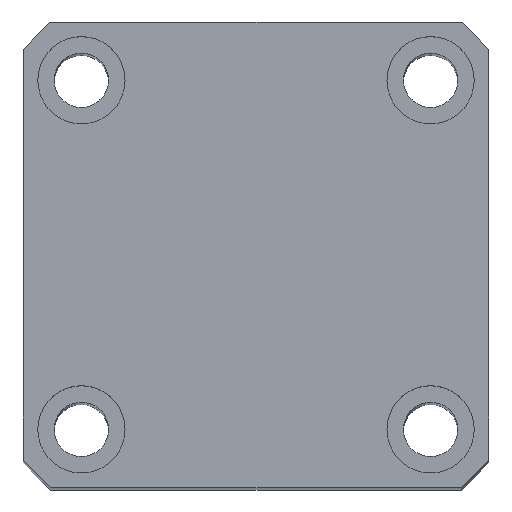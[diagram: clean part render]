
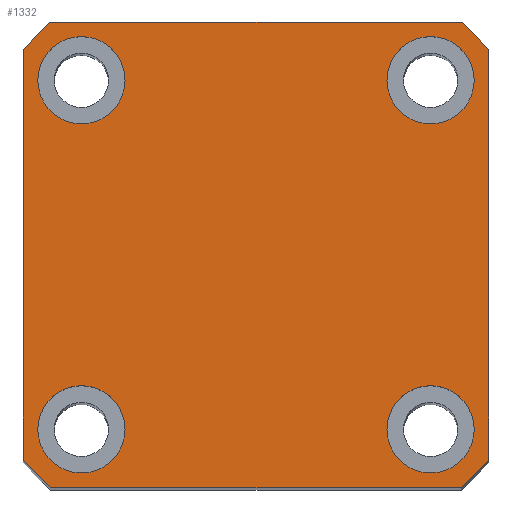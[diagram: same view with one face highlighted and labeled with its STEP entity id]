
A CAD part, top view. The second image highlights one B-rep face of the part: STEP entity #1332.
In plain terms, the highlighted planar face has unit normal (0, 0, 1) as drawn and (1, 0, 0) by its records, which use the part's own axes.
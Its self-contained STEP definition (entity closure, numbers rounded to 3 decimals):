
#74 = CARTESIAN_POINT ( 'NONE',  ( 145., -18., -22.5 ) ) ;
#118 = EDGE_CURVE ( 'NONE', #3760, #1290, #1661, .T. ) ;
#130 = CARTESIAN_POINT ( 'NONE',  ( 145., 18., -18. ) ) ;
#169 = DIRECTION ( 'NONE',  ( 0., 0., -1. ) ) ;
#193 = DIRECTION ( 'NONE',  ( 1., 0., 0. ) ) ;
#204 = CARTESIAN_POINT ( 'NONE',  ( 145., -18., 18. ) ) ;
#252 = ORIENTED_EDGE ( 'NONE', *, *, #4270, .T. ) ;
#276 = CARTESIAN_POINT ( 'NONE',  ( 145., -24., 24. ) ) ;
#301 = DIRECTION ( 'NONE',  ( 1., 0., 0. ) ) ;
#417 = DIRECTION ( 'NONE',  ( 0., 0., -1. ) ) ;
#438 = CIRCLE ( 'NONE', #7510, 32. ) ;
#679 = CIRCLE ( 'NONE', #4464, 4.5 ) ;
#749 = DIRECTION ( 'NONE',  ( 0., 0., -1. ) ) ;
#766 = AXIS2_PLACEMENT_3D ( 'NONE', #3993, #301, #4624 ) ;
#984 = ORIENTED_EDGE ( 'NONE', *, *, #5555, .F. ) ;
#1016 = AXIS2_PLACEMENT_3D ( 'NONE', #5134, #5080, #5016 ) ;
#1029 = DIRECTION ( 'NONE',  ( 1., 0., 0. ) ) ;
#1054 = CIRCLE ( 'NONE', #766, 32. ) ;
#1068 = CARTESIAN_POINT ( 'NONE',  ( 145., 18., -22.5 ) ) ;
#1128 = EDGE_LOOP ( 'NONE', ( #1763, #984 ) ) ;
#1262 = EDGE_CURVE ( 'NONE', #6157, #1679, #679, .T. ) ;
#1290 = VERTEX_POINT ( 'NONE', #7888 ) ;
#1332 = ADVANCED_FACE ( 'NONE', ( #7051, #3767, #5225, #6846, #1943 ), #7964, .T. ) ;
#1333 = VERTEX_POINT ( 'NONE', #7410 ) ;
#1339 = EDGE_CURVE ( 'NONE', #7829, #2596, #5021, .T. ) ;
#1362 = ORIENTED_EDGE ( 'NONE', *, *, #6272, .F. ) ;
#1388 = CARTESIAN_POINT ( 'NONE',  ( 145., -24., 21.166 ) ) ;
#1460 = EDGE_CURVE ( 'NONE', #1290, #7829, #6071, .T. ) ;
#1551 = AXIS2_PLACEMENT_3D ( 'NONE', #4717, #1029, #5331 ) ;
#1581 = ORIENTED_EDGE ( 'NONE', *, *, #3034, .F. ) ;
#1661 = LINE ( 'NONE', #2229, #7819 ) ;
#1679 = VERTEX_POINT ( 'NONE', #1068 ) ;
#1699 = EDGE_CURVE ( 'NONE', #1970, #1333, #7138, .T. ) ;
#1747 = VECTOR ( 'NONE', #6970, 1000. ) ;
#1760 = VERTEX_POINT ( 'NONE', #74 ) ;
#1763 = ORIENTED_EDGE ( 'NONE', *, *, #5525, .F. ) ;
#1791 = CARTESIAN_POINT ( 'NONE',  ( 145., -18., -18. ) ) ;
#1799 = ORIENTED_EDGE ( 'NONE', *, *, #1262, .F. ) ;
#1895 = CARTESIAN_POINT ( 'NONE',  ( 145., -18., 13.5 ) ) ;
#1943 = FACE_OUTER_BOUND ( 'NONE', #2030, .T. ) ;
#1970 = VERTEX_POINT ( 'NONE', #1895 ) ;
#2030 = EDGE_LOOP ( 'NONE', ( #4029, #6980, #2852, #5940, #2467, #252, #3338, #4252 ) ) ;
#2226 = EDGE_CURVE ( 'NONE', #1679, #6157, #5675, .T. ) ;
#2229 = CARTESIAN_POINT ( 'NONE',  ( 145., 24., 24. ) ) ;
#2253 = VERTEX_POINT ( 'NONE', #1388 ) ;
#2348 = VERTEX_POINT ( 'NONE', #4594 ) ;
#2381 = VERTEX_POINT ( 'NONE', #3367 ) ;
#2413 = DIRECTION ( 'NONE',  ( 0., 0., -1. ) ) ;
#2436 = DIRECTION ( 'NONE',  ( 1., 0., 0. ) ) ;
#2467 = ORIENTED_EDGE ( 'NONE', *, *, #1339, .T. ) ;
#2596 = VERTEX_POINT ( 'NONE', #4768 ) ;
#2700 = VECTOR ( 'NONE', #5219, 1000. ) ;
#2712 = DIRECTION ( 'NONE',  ( 1., 0., 0. ) ) ;
#2843 = DIRECTION ( 'NONE',  ( 0., 0., 1. ) ) ;
#2852 = ORIENTED_EDGE ( 'NONE', *, *, #118, .T. ) ;
#3034 = EDGE_CURVE ( 'NONE', #2348, #2381, #5871, .T. ) ;
#3078 = CIRCLE ( 'NONE', #4835, 4.5 ) ;
#3117 = CARTESIAN_POINT ( 'NONE',  ( 145., 0., 0. ) ) ;
#3286 = CIRCLE ( 'NONE', #4423, 4.5 ) ;
#3338 = ORIENTED_EDGE ( 'NONE', *, *, #6492, .T. ) ;
#3367 = CARTESIAN_POINT ( 'NONE',  ( 145., 18., 22.5 ) ) ;
#3382 = CARTESIAN_POINT ( 'NONE',  ( 145., -18., -13.5 ) ) ;
#3441 = AXIS2_PLACEMENT_3D ( 'NONE', #6385, #2712, #7017 ) ;
#3643 = CARTESIAN_POINT ( 'NONE',  ( 145., 18., 18. ) ) ;
#3732 = DIRECTION ( 'NONE',  ( 0., 0., -1. ) ) ;
#3760 = VERTEX_POINT ( 'NONE', #3887 ) ;
#3767 = FACE_BOUND ( 'NONE', #6090, .T. ) ;
#3887 = CARTESIAN_POINT ( 'NONE',  ( 145., 24., -21.166 ) ) ;
#3993 = CARTESIAN_POINT ( 'NONE',  ( 145., 0., 0. ) ) ;
#4016 = EDGE_LOOP ( 'NONE', ( #6686, #1799 ) ) ;
#4029 = ORIENTED_EDGE ( 'NONE', *, *, #4202, .T. ) ;
#4114 = DIRECTION ( 'NONE',  ( 1., 0., 0. ) ) ;
#4194 = ORIENTED_EDGE ( 'NONE', *, *, #1699, .F. ) ;
#4202 = EDGE_CURVE ( 'NONE', #4887, #4915, #7012, .T. ) ;
#4252 = ORIENTED_EDGE ( 'NONE', *, *, #5341, .T. ) ;
#4260 = DIRECTION ( 'NONE',  ( 0., 0., -1. ) ) ;
#4270 = EDGE_CURVE ( 'NONE', #2596, #2253, #438, .T. ) ;
#4292 = AXIS2_PLACEMENT_3D ( 'NONE', #204, #193, #169 ) ;
#4423 = AXIS2_PLACEMENT_3D ( 'NONE', #1791, #6092, #2413 ) ;
#4447 = DIRECTION ( 'NONE',  ( 1., 0., 0. ) ) ;
#4464 = AXIS2_PLACEMENT_3D ( 'NONE', #7345, #7961, #6748 ) ;
#4594 = CARTESIAN_POINT ( 'NONE',  ( 145., 18., 13.5 ) ) ;
#4624 = DIRECTION ( 'NONE',  ( 0., 0., -1. ) ) ;
#4717 = CARTESIAN_POINT ( 'NONE',  ( 145., 0., 0. ) ) ;
#4768 = CARTESIAN_POINT ( 'NONE',  ( 145., -21.166, 24. ) ) ;
#4818 = CARTESIAN_POINT ( 'NONE',  ( 145., -21.166, -24. ) ) ;
#4835 = AXIS2_PLACEMENT_3D ( 'NONE', #6116, #2436, #6732 ) ;
#4887 = VERTEX_POINT ( 'NONE', #4818 ) ;
#4915 = VERTEX_POINT ( 'NONE', #6049 ) ;
#5010 = CIRCLE ( 'NONE', #3441, 4.5 ) ;
#5016 = DIRECTION ( 'NONE',  ( 0., 0., -1. ) ) ;
#5021 = LINE ( 'NONE', #7689, #1747 ) ;
#5080 = DIRECTION ( 'NONE',  ( 1., 0., 0. ) ) ;
#5134 = CARTESIAN_POINT ( 'NONE',  ( 145., 0., 0. ) ) ;
#5219 = DIRECTION ( 'NONE',  ( 0., 0., -1. ) ) ;
#5225 = FACE_BOUND ( 'NONE', #4016, .T. ) ;
#5331 = DIRECTION ( 'NONE',  ( 0., 0., -1. ) ) ;
#5341 = EDGE_CURVE ( 'NONE', #7766, #4887, #7312, .T. ) ;
#5369 = VECTOR ( 'NONE', #7985, 1000. ) ;
#5393 = AXIS2_PLACEMENT_3D ( 'NONE', #130, #4447, #749 ) ;
#5456 = EDGE_LOOP ( 'NONE', ( #1581, #1362 ) ) ;
#5525 = EDGE_CURVE ( 'NONE', #1760, #7158, #3286, .T. ) ;
#5540 = CARTESIAN_POINT ( 'NONE',  ( 145., 24., -24. ) ) ;
#5555 = EDGE_CURVE ( 'NONE', #7158, #1760, #3078, .T. ) ;
#5675 = CIRCLE ( 'NONE', #5393, 4.5 ) ;
#5729 = EDGE_CURVE ( 'NONE', #1333, #1970, #5010, .T. ) ;
#5778 = AXIS2_PLACEMENT_3D ( 'NONE', #3643, #7945, #4260 ) ;
#5871 = CIRCLE ( 'NONE', #6308, 4.5 ) ;
#5893 = CARTESIAN_POINT ( 'NONE',  ( 145., 0., 0. ) ) ;
#5940 = ORIENTED_EDGE ( 'NONE', *, *, #1460, .T. ) ;
#5955 = CARTESIAN_POINT ( 'NONE',  ( 145., -24., -21.166 ) ) ;
#5963 = LINE ( 'NONE', #276, #2700 ) ;
#5968 = ORIENTED_EDGE ( 'NONE', *, *, #5729, .F. ) ;
#6049 = CARTESIAN_POINT ( 'NONE',  ( 145., 21.166, -24. ) ) ;
#6071 = CIRCLE ( 'NONE', #1016, 32. ) ;
#6090 = EDGE_LOOP ( 'NONE', ( #4194, #5968 ) ) ;
#6092 = DIRECTION ( 'NONE',  ( 1., 0., 0. ) ) ;
#6116 = CARTESIAN_POINT ( 'NONE',  ( 145., -18., -18. ) ) ;
#6157 = VERTEX_POINT ( 'NONE', #7749 ) ;
#6272 = EDGE_CURVE ( 'NONE', #2381, #2348, #6533, .T. ) ;
#6308 = AXIS2_PLACEMENT_3D ( 'NONE', #7804, #4114, #417 ) ;
#6385 = CARTESIAN_POINT ( 'NONE',  ( 145., -18., 18. ) ) ;
#6492 = EDGE_CURVE ( 'NONE', #2253, #7766, #5963, .T. ) ;
#6533 = CIRCLE ( 'NONE', #5778, 4.5 ) ;
#6686 = ORIENTED_EDGE ( 'NONE', *, *, #2226, .F. ) ;
#6732 = DIRECTION ( 'NONE',  ( 0., 0., -1. ) ) ;
#6748 = DIRECTION ( 'NONE',  ( 0., 0., -1. ) ) ;
#6846 = FACE_BOUND ( 'NONE', #5456, .T. ) ;
#6940 = AXIS2_PLACEMENT_3D ( 'NONE', #5893, #7380, #7353 ) ;
#6970 = DIRECTION ( 'NONE',  ( 0., -1., 0. ) ) ;
#6980 = ORIENTED_EDGE ( 'NONE', *, *, #7639, .T. ) ;
#7012 = LINE ( 'NONE', #5540, #5369 ) ;
#7017 = DIRECTION ( 'NONE',  ( 0., 0., -1. ) ) ;
#7051 = FACE_BOUND ( 'NONE', #1128, .T. ) ;
#7138 = CIRCLE ( 'NONE', #4292, 4.5 ) ;
#7158 = VERTEX_POINT ( 'NONE', #3382 ) ;
#7187 = CARTESIAN_POINT ( 'NONE',  ( 145., 21.166, 24. ) ) ;
#7312 = CIRCLE ( 'NONE', #1551, 32. ) ;
#7345 = CARTESIAN_POINT ( 'NONE',  ( 145., 18., -18. ) ) ;
#7353 = DIRECTION ( 'NONE',  ( 0., 0., -1. ) ) ;
#7380 = DIRECTION ( 'NONE',  ( 1., 0., 0. ) ) ;
#7410 = CARTESIAN_POINT ( 'NONE',  ( 145., -18., 22.5 ) ) ;
#7425 = DIRECTION ( 'NONE',  ( 1., 0., 0. ) ) ;
#7510 = AXIS2_PLACEMENT_3D ( 'NONE', #3117, #7425, #3732 ) ;
#7639 = EDGE_CURVE ( 'NONE', #4915, #3760, #1054, .T. ) ;
#7689 = CARTESIAN_POINT ( 'NONE',  ( 145., 24., 24. ) ) ;
#7749 = CARTESIAN_POINT ( 'NONE',  ( 145., 18., -13.5 ) ) ;
#7766 = VERTEX_POINT ( 'NONE', #5955 ) ;
#7804 = CARTESIAN_POINT ( 'NONE',  ( 145., 18., 18. ) ) ;
#7819 = VECTOR ( 'NONE', #2843, 1000. ) ;
#7829 = VERTEX_POINT ( 'NONE', #7187 ) ;
#7888 = CARTESIAN_POINT ( 'NONE',  ( 145., 24., 21.166 ) ) ;
#7945 = DIRECTION ( 'NONE',  ( 1., 0., 0. ) ) ;
#7961 = DIRECTION ( 'NONE',  ( 1., 0., 0. ) ) ;
#7964 = PLANE ( 'NONE',  #6940 ) ;
#7985 = DIRECTION ( 'NONE',  ( 0., 1., 0. ) ) ;
